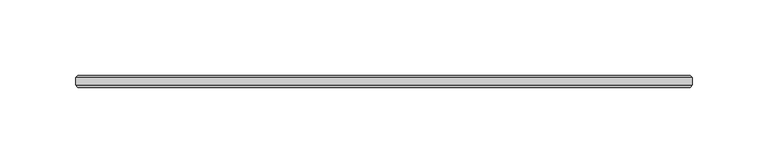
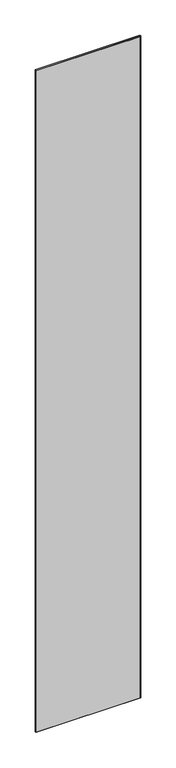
"""IFC4 building model written with IfcOpenShell, lengths in millimetres: plate geometry, 1-AMG-1-Панель одинарный витраж 8, 10 : Смещение 32 Толщина 8mm."""

from ifc_helpers import new_model, si_unit, origin, place, context, project, spatial, faceted_brep, source, transform, mapped, element, save


def plate_f5c13d01(model_context):
    return source(origin(), model_context, "Body", "Brep", [
        faceted_brep([(201.4511719, 29.5038347, 2722.8), (201.4511719, 34.4961653, 2722.8), (-206.4511719, 34.4961653, 2722.8), (-206.4511719, 29.5038347, 2722.8), (201.4511719, 34.4961653, -7.0), (201.4511719, 29.5038347, -7.0), (-206.4511719, 29.5038347, -7.0), (-206.4511719, 34.4961653, -7.0), (-204.9473372, 36.0, 2721.2961653), (199.9473372, 36.0, 2721.2961653), (199.9473372, 36.0, -5.5039422), (-204.9473372, 36.0, -5.5039422), (199.9473372, 28.0, 2721.2961653), (-204.9473372, 28.0, 2721.2961653), (-204.9473372, 28.0, -5.4961653), (199.9473372, 28.0, -5.4961653)], [[[0, 1, 2, 3]], [[4, 5, 6, 7]], [[8, 9, 10, 11]], [[3, 2, 7, 6]], [[12, 13, 14, 15]], [[1, 0, 5, 4]], [[1, 4, 10, 9]], [[5, 0, 12, 15]], [[7, 2, 8, 11]], [[3, 6, 14, 13]], [[0, 3, 13, 12]], [[2, 1, 9, 8]], [[6, 5, 15, 14]], [[4, 7, 11, 10]]]),
    ])


if __name__ == "__main__":
    model = new_model("IFC4")
    model_context = context("Model", 3, world=origin())
    ifc_project = project(units=[si_unit("LENGTHUNIT", "METRE", prefix="MILLI")], contexts=[model_context])
    site = spatial("IfcSite", under=ifc_project)
    building = spatial("IfcBuilding", under=site)
    placement = place(None, origin())
    plate_shape = plate_f5c13d01(model_context)
    element("IfcPlate", 1, ObjectType="1-AMG-1-Панель одинарный витраж 8, 10 : Смещение 32 Толщина 8mm", at=placement, inside=building, context=model_context, shape_type="MappedRepresentation", body=[
        mapped(plate_shape, transform((0.0, 0.0, 0.0), x_axis=(1.0, 0.0, 0.0), y_axis=(0.0, 1.0, 0.0), z_axis=(0.0, 0.0, 1.0))),
    ])
    save(model, "model.ifc")
